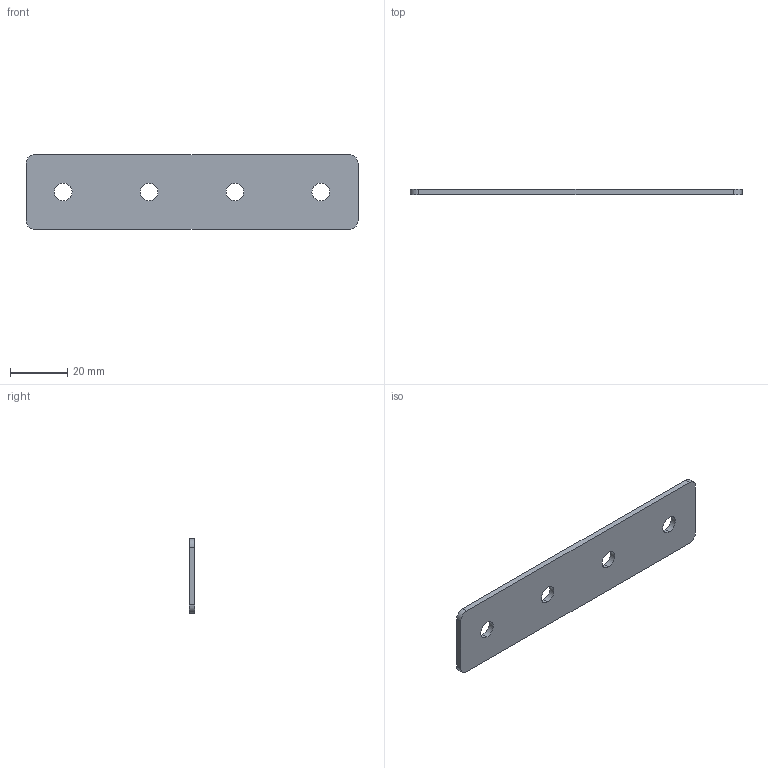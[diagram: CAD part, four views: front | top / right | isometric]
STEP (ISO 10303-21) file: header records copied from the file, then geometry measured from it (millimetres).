
FILE_DESCRIPTION (( 'STEP AP203' ), '1' );
FILE_NAME ('ﾏ-4-30.STEP', '2016-07-23T14:48:28', ( '' ), ( '' ), 'SwSTEP 2.0', 'SolidWorks 2014', '' );
FILE_SCHEMA (( 'CONFIG_CONTROL_DESIGN' ));
Length unit declared in the file: millimetre
Products named in the file (1): ﾏ-4-30
Bounding box: 116 x 2 x 26 mm (x, y, z)
Volume: 5775.2 mm3; surface area: 6488.8 mm2
Topology: 1 solids, 1 shells, 18 faces, 48 edges, 32 vertices
Faces by surface type: cylinder 12, plane 6
Entity records: 669 total; most frequent: DIRECTION 110, CARTESIAN_POINT 99, ORIENTED_EDGE 96, EDGE_CURVE 48, AXIS2_PLACEMENT_3D 43, VERTEX_POINT 32, EDGE_LOOP 26, CIRCLE 24
